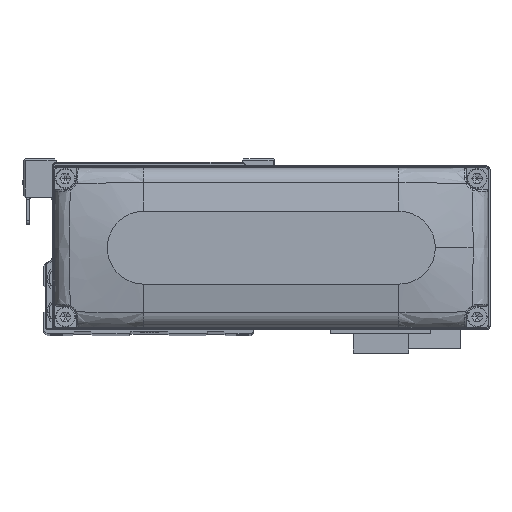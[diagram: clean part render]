
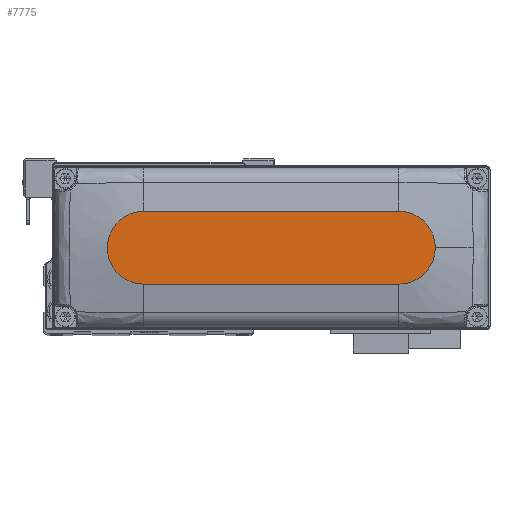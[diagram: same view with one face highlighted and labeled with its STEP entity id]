
A CAD part, top view. The second image highlights one B-rep face of the part: STEP entity #7775.
In plain terms, the highlighted planar face has unit normal (0, 0, 1).
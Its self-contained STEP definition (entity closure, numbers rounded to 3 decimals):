
#349 = CIRCLE ( 'NONE', #21309, 10. ) ;
#923 = VERTEX_POINT ( 'NONE', #6419 ) ;
#1082 = CARTESIAN_POINT ( 'NONE',  ( 35., -10., 28. ) ) ;
#1805 = ORIENTED_EDGE ( 'NONE', *, *, #36494, .T. ) ;
#1839 = EDGE_CURVE ( 'NONE', #31895, #23396, #349, .T. ) ;
#1958 = CARTESIAN_POINT ( 'NONE',  ( -35., 0., 28. ) ) ;
#2961 = DIRECTION ( 'NONE',  ( 1., 0., 0. ) ) ;
#3254 = DIRECTION ( 'NONE',  ( 1., 0., 0. ) ) ;
#3587 = EDGE_LOOP ( 'NONE', ( #21926, #16743, #23016, #1805, #29892 ) ) ;
#5258 = DIRECTION ( 'NONE',  ( 0., 0., 1. ) ) ;
#5719 = EDGE_CURVE ( 'NONE', #29309, #923, #12449, .T. ) ;
#5832 = CIRCLE ( 'NONE', #26793, 10. ) ;
#6419 = CARTESIAN_POINT ( 'NONE',  ( 35., 10., 28. ) ) ;
#6943 = EDGE_CURVE ( 'NONE', #23396, #36659, #17489, .T. ) ;
#6985 = DIRECTION ( 'NONE',  ( 1., 0., 0. ) ) ;
#7775 = ADVANCED_FACE ( 'NONE', ( #8064 ), #19487, .T. ) ;
#8064 = FACE_OUTER_BOUND ( 'NONE', #3587, .T. ) ;
#12146 = EDGE_CURVE ( 'NONE', #923, #31895, #13542, .T. ) ;
#12449 = CIRCLE ( 'NONE', #33405, 10. ) ;
#13377 = DIRECTION ( 'NONE',  ( 0., 0., 1. ) ) ;
#13542 = LINE ( 'NONE', #24985, #18975 ) ;
#16678 = DIRECTION ( 'NONE',  ( 1., 0., 0. ) ) ;
#16743 = ORIENTED_EDGE ( 'NONE', *, *, #1839, .T. ) ;
#17199 = CARTESIAN_POINT ( 'NONE',  ( 35., 0., 28. ) ) ;
#17489 = LINE ( 'NONE', #28935, #27177 ) ;
#18975 = VECTOR ( 'NONE', #36412, 1000. ) ;
#19487 = PLANE ( 'NONE',  #29389 ) ;
#21228 = CARTESIAN_POINT ( 'NONE',  ( 35., 0., 28. ) ) ;
#21309 = AXIS2_PLACEMENT_3D ( 'NONE', #1958, #13377, #24815 ) ;
#21926 = ORIENTED_EDGE ( 'NONE', *, *, #12146, .T. ) ;
#22481 = CARTESIAN_POINT ( 'NONE',  ( 45., 0., 28. ) ) ;
#23016 = ORIENTED_EDGE ( 'NONE', *, *, #6943, .T. ) ;
#23396 = VERTEX_POINT ( 'NONE', #36148 ) ;
#24815 = DIRECTION ( 'NONE',  ( 1., 0., 0. ) ) ;
#24985 = CARTESIAN_POINT ( 'NONE',  ( -35., 10., 28. ) ) ;
#26793 = AXIS2_PLACEMENT_3D ( 'NONE', #17199, #28647, #2961 ) ;
#27177 = VECTOR ( 'NONE', #3254, 1000. ) ;
#28647 = DIRECTION ( 'NONE',  ( 0., 0., 1. ) ) ;
#28935 = CARTESIAN_POINT ( 'NONE',  ( -35., -10., 28. ) ) ;
#29309 = VERTEX_POINT ( 'NONE', #22481 ) ;
#29389 = AXIS2_PLACEMENT_3D ( 'NONE', #30935, #5258, #16678 ) ;
#29892 = ORIENTED_EDGE ( 'NONE', *, *, #5719, .T. ) ;
#30935 = CARTESIAN_POINT ( 'NONE',  ( 0., 0., 28. ) ) ;
#31173 = CARTESIAN_POINT ( 'NONE',  ( -35., 10., 28. ) ) ;
#31895 = VERTEX_POINT ( 'NONE', #31173 ) ;
#32660 = DIRECTION ( 'NONE',  ( 0., 0., 1. ) ) ;
#33405 = AXIS2_PLACEMENT_3D ( 'NONE', #21228, #32660, #6985 ) ;
#36148 = CARTESIAN_POINT ( 'NONE',  ( -35., -10., 28. ) ) ;
#36412 = DIRECTION ( 'NONE',  ( -1., 0., 0. ) ) ;
#36494 = EDGE_CURVE ( 'NONE', #36659, #29309, #5832, .T. ) ;
#36659 = VERTEX_POINT ( 'NONE', #1082 ) ;
